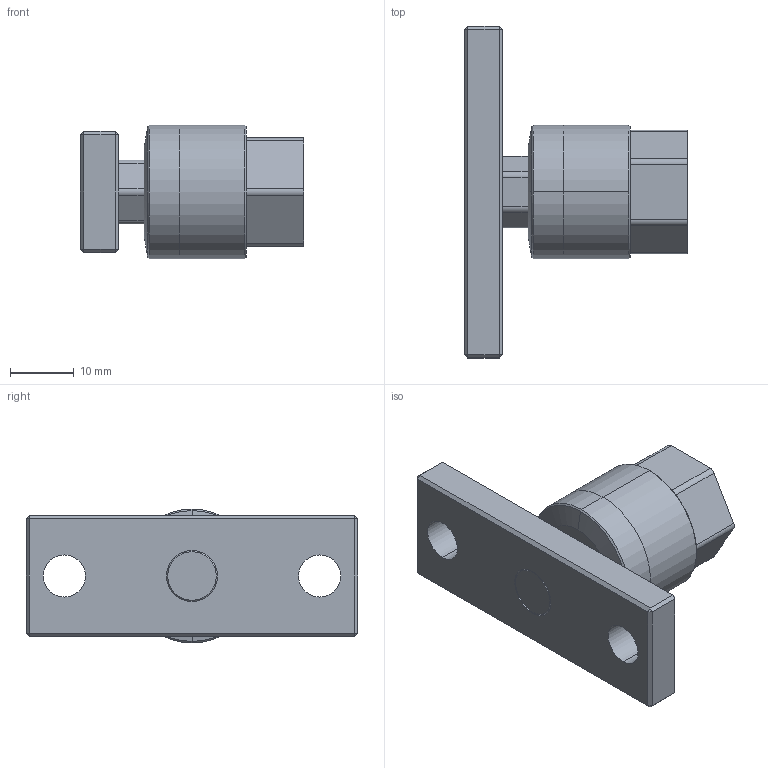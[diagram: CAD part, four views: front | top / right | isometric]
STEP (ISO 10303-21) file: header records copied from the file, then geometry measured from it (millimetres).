
FILE_DESCRIPTION (( 'STEP AP203' ), '1' );
FILE_NAME ('FCM8-1.25-F.STEP', '2016-04-14T01:52:50', ( '' ), ( '' ), 'SwSTEP 2.0', 'SolidWorks 2014', '' );
FILE_SCHEMA (( 'CONFIG_CONTROL_DESIGN' ));
Length unit declared in the file: millimetre
Products named in the file (3): FCM8-1.25(F); FCM8-F; FCM8-1.25-F
Assembly tree (2 placements, depth 2):
  FCM8-1.25-F
    FCM8-1.25(F)
    FCM8-F
Bounding box: 35 x 52 x 21 mm (x, y, z)
Volume: 12861.9 mm3; surface area: 5799.1 mm2
Topology: 2 solids, 2 shells, 79 faces, 180 edges, 107 vertices
Faces by surface type: plane 43, cylinder 26, cone 10
Entity records: 2487 total; most frequent: DIRECTION 404, CARTESIAN_POINT 369, ORIENTED_EDGE 356, EDGE_CURVE 178, AXIS2_PLACEMENT_3D 142, LINE 120, VECTOR 120, VERTEX_POINT 107
